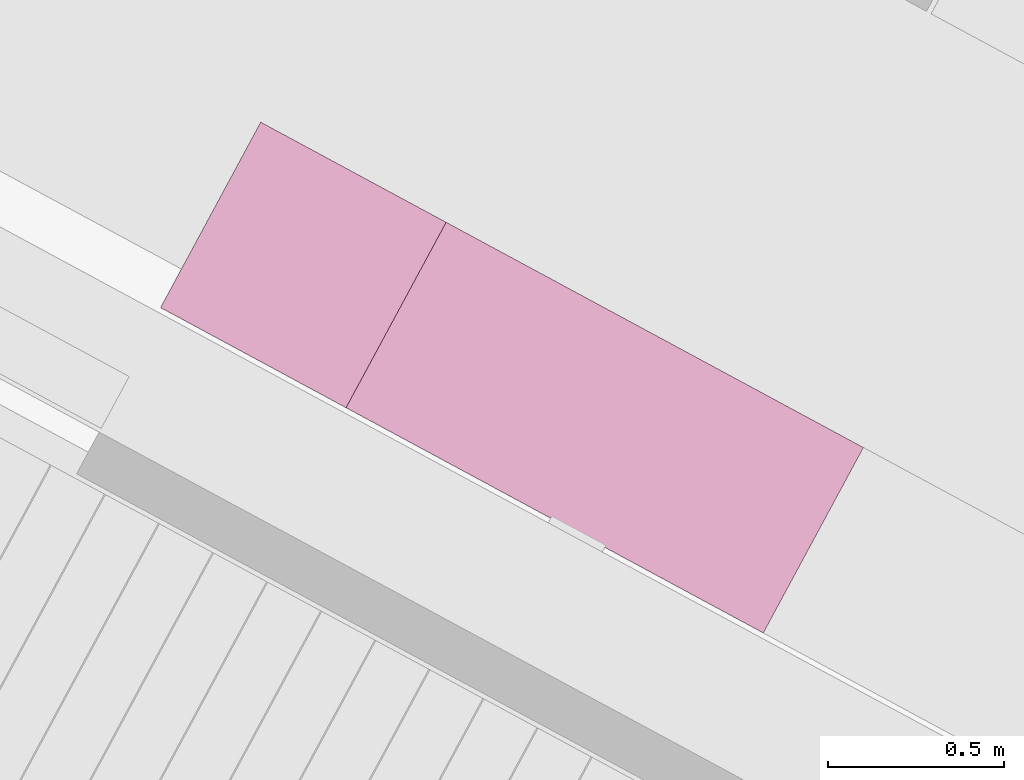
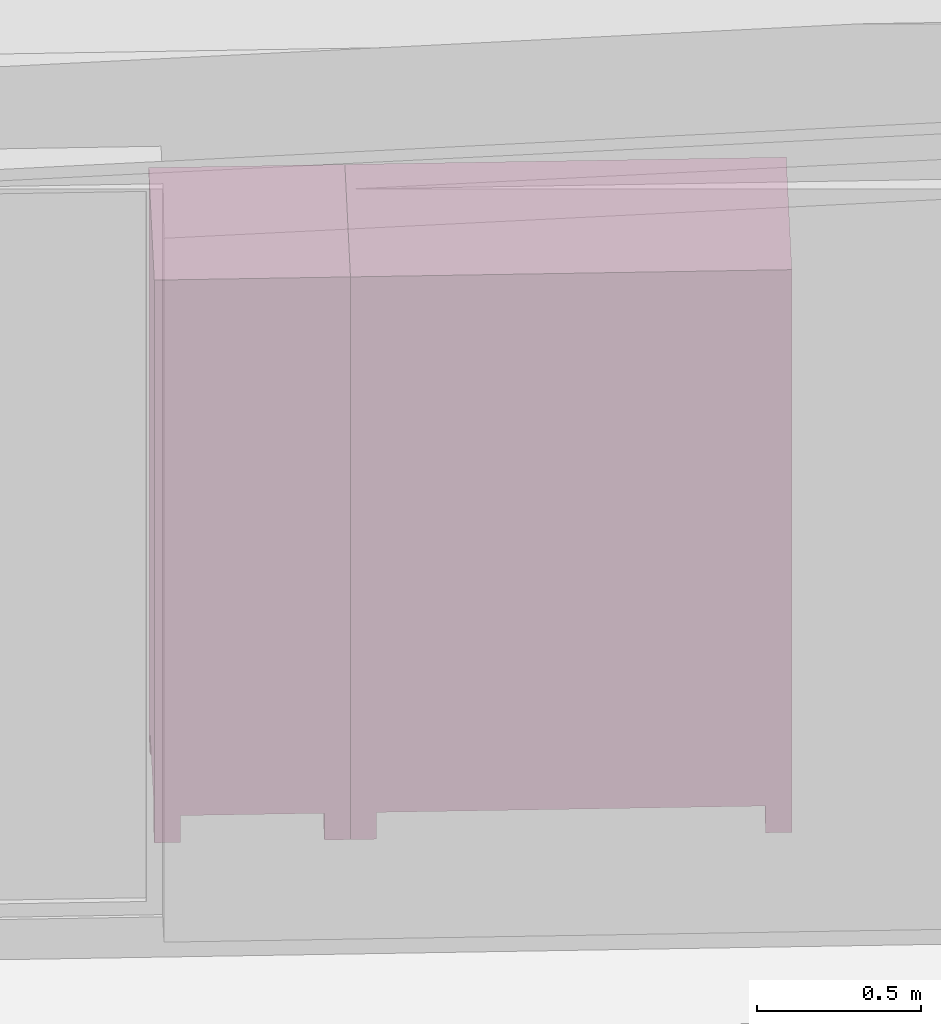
# One storey, part 26 of 48: 2 furnishings.
"""IFC2X3 building model written with IfcOpenShell, lengths in metres."""

from ifc_helpers import new_model, entity, si_unit, converted_unit, derived_unit, money_unit, direction, frame, origin_with_axes, place, context, subcontext, project, spatial, faceted_brep, type_object, element, save


model = new_model("IFC2X3")

# Units and contexts
model_context = context("Model", 3, precision=1e-05, world=origin_with_axes(), true_north=direction((0.0, 1.0)))
body_context = subcontext(model_context, "Body", "Model", "MODEL_VIEW")
ifc_project = project(units=[si_unit("LENGTHUNIT", "METRE"), si_unit("AREAUNIT", "SQUARE_METRE"), si_unit("VOLUMEUNIT", "CUBIC_METRE"), converted_unit("PLANEANGLEUNIT", "DEGREE", entity("IfcPlaneAngleMeasure", 0.0174532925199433), si_unit("PLANEANGLEUNIT", "RADIAN"), dimensions=[0, 0, 0, 0, 0, 0, 0]), money_unit("EUR"), converted_unit("TIMEUNIT", "Year", entity("IfcTimeMeasure", 31556926.0), si_unit("TIMEUNIT", "SECOND"), dimensions=[0, 0, 1, 0, 0, 0, 0]), si_unit("MASSUNIT", "GRAM", prefix="KILO"), si_unit("THERMODYNAMICTEMPERATUREUNIT", "DEGREE_CELSIUS"), si_unit("LUMINOUSINTENSITYUNIT", "LUMEN"), si_unit("ENERGYUNIT", "JOULE", prefix="MEGA"), derived_unit("THERMALCONDUCTANCEUNIT", [(si_unit("POWERUNIT", "WATT"), 1), (si_unit("LENGTHUNIT", "METRE"), -1), (si_unit("THERMODYNAMICTEMPERATUREUNIT", "KELVIN"), -1)]), derived_unit("SPECIFICHEATCAPACITYUNIT", [(si_unit("ENERGYUNIT", "JOULE"), 1), (si_unit("MASSUNIT", "GRAM", prefix="KILO"), -1), (si_unit("THERMODYNAMICTEMPERATUREUNIT", "KELVIN"), -1)]), derived_unit("MASSDENSITYUNIT", [(si_unit("MASSUNIT", "GRAM", prefix="KILO"), 1), (si_unit("VOLUMEUNIT", "CUBIC_METRE"), -1)])], contexts=[model_context])

# Site, building, storey
site_placement = place(None, frame((-3.949935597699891, 1.740105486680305, 0.0), z_axis=(0.0, 0.0, 1.0), x_axis=(0.8799804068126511, -0.475009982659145, 0.0)))
site = spatial("IfcSite", under=ifc_project, at=site_placement, Name="Gelände", CompositionType="ELEMENT")
building_placement = place(site_placement, origin_with_axes())
building = spatial("IfcBuilding", under=site, at=building_placement, Name="Gebäude", CompositionType="ELEMENT")
storey_placement = place(building_placement, frame((0.0, 0.0, 4.55), z_axis=(0.0, 0.0, 1.0), x_axis=(1.0, 0.0, 0.0)))
storey = spatial("IfcBuildingStorey", under=building, at=storey_placement, Name="Staffelgeschoss", CompositionType="ELEMENT", Elevation=4.55)

# Furnishings
furnishing_element_type = type_object("IfcFurnishingElementType", Name="Kleiderschrank 22")
furnishing_1_placement = place(storey_placement, frame((15.85040854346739, 2.239992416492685, 0.0), z_axis=(0.0, 0.0, 1.0), x_axis=(-1.0, 0.0, 0.0)))
element("IfcFurnishingElement", 1, at=furnishing_1_placement, inside=storey, type_object=furnishing_element_type, Name="Objekt-0066", context=body_context, shape_type="Brep", body=[
    faceted_brep([(0.02000000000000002, 0.6000000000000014, 0.12), (0.02000000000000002, 0.5800000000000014, 0.12), (0.02000000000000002, 0.5800000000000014, 2.05), (0.02000000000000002, 0.6000000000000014, 2.05), (0.5799999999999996, 0.6000000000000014, 0.12), (0.5799999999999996, 0.5800000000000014, 0.12), (0.5799999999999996, 0.5800000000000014, 2.05), (0.5799999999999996, 0.6000000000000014, 2.05)], [[[0, 1, 2, 3]], [[0, 4, 5, 1]], [[1, 5, 6, 2]], [[3, 2, 6, 7]], [[4, 0, 3, 7]], [[5, 4, 7, 6]]]),
    faceted_brep([(0.5999999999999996, 0.05000000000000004, 0.1), (0.5799999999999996, 0.05000000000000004, 0.1), (0.5799999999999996, 0.6000000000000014, 0.1), (0.5999999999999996, 0.6000000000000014, 0.1), (0.5999999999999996, 0.05000000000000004, 2.07), (0.5799999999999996, 0.05000000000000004, 2.07), (0.5799999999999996, 0.6000000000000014, 2.07), (0.5999999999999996, 0.6000000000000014, 2.07)], [[[0, 1, 2, 3]], [[1, 0, 4, 5]], [[2, 1, 5, 6]], [[3, 2, 6, 7]], [[0, 3, 7, 4]], [[5, 4, 7, 6]]]),
    faceted_brep([(0.02, 0.05000000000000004, 0.1), (0.0, 0.05000000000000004, 0.1), (0.0, 0.6000000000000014, 0.1), (0.02, 0.6000000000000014, 0.1), (0.02, 0.05000000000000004, 2.07), (0.0, 0.05000000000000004, 2.07), (0.0, 0.6000000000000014, 2.07), (0.02, 0.6000000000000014, 2.07)], [[[0, 1, 2, 3]], [[1, 0, 4, 5]], [[2, 1, 5, 6]], [[3, 2, 6, 7]], [[0, 3, 7, 4]], [[5, 4, 7, 6]]]),
    faceted_brep([(0.5799999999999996, 0.05000000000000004, 0.1), (0.02000000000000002, 0.05000000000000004, 0.1), (0.02000000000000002, 0.6000000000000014, 0.1), (0.5799999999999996, 0.6000000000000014, 0.1), (0.5799999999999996, 0.05000000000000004, 0.12), (0.02000000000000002, 0.05000000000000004, 0.12), (0.02000000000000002, 0.6000000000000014, 0.12), (0.5799999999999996, 0.6000000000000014, 0.12)], [[[0, 1, 2, 3]], [[1, 0, 4, 5]], [[2, 1, 5, 6]], [[3, 2, 6, 7]], [[0, 3, 7, 4]], [[5, 4, 7, 6]]]),
    faceted_brep([(0.5799999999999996, 0.05000000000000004, 2.05), (0.02000000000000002, 0.05000000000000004, 2.05), (0.02000000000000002, 0.6000000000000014, 2.05), (0.5799999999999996, 0.6000000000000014, 2.05), (0.5799999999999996, 0.05000000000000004, 2.07), (0.02000000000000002, 0.05000000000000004, 2.07), (0.02000000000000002, 0.6000000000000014, 2.07), (0.5799999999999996, 0.6000000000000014, 2.07)], [[[0, 1, 2, 3]], [[1, 0, 4, 5]], [[2, 1, 5, 6]], [[3, 2, 6, 7]], [[0, 3, 7, 4]], [[5, 4, 7, 6]]]),
    faceted_brep([(0.5999999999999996, 0.6000000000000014, 2.07), (0.5999999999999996, 0.6000000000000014, 2.1), (0.5999999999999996, 0.0, 2.1), (0.5999999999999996, 0.0, 2.07), (0.0, 0.6000000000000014, 2.07), (0.0, 0.6000000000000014, 2.1), (0.0, 0.0, 2.1), (0.0, 0.0, 2.07)], [[[0, 1, 2, 3]], [[4, 5, 1, 0]], [[1, 5, 6, 2]], [[3, 2, 6, 7]], [[0, 3, 7, 4]], [[7, 6, 5, 4]]]),
    faceted_brep([(0.07999999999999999, 0.5200000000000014, 0.0), (0.07999999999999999, 0.6000000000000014, 0.0), (0.07999999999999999, 0.6000000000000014, 0.1), (0.07999999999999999, 0.5200000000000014, 0.1), (0.0, 0.5200000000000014, 0.0), (0.0, 0.6000000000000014, 0.0), (0.0, 0.6000000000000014, 0.1), (0.0, 0.5200000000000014, 0.1)], [[[0, 1, 2, 3]], [[0, 4, 5, 1]], [[1, 5, 6, 2]], [[3, 2, 6, 7]], [[4, 0, 3, 7]], [[5, 4, 7, 6]]]),
    faceted_brep([(0.5999999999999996, 0.5200000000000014, 0.0), (0.5999999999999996, 0.6000000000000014, 0.0), (0.5999999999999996, 0.6000000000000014, 0.1), (0.5999999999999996, 0.5200000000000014, 0.1), (0.5199999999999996, 0.5200000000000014, 0.0), (0.5199999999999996, 0.6000000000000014, 0.0), (0.5199999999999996, 0.6000000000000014, 0.1), (0.5199999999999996, 0.5200000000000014, 0.1)], [[[0, 1, 2, 3]], [[0, 4, 5, 1]], [[1, 5, 6, 2]], [[3, 2, 6, 7]], [[4, 0, 3, 7]], [[5, 4, 7, 6]]]),
    faceted_brep([(0.07999999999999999, 0.05000000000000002, 0.0), (0.07999999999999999, 0.13, 0.0), (0.07999999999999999, 0.13, 0.1), (0.07999999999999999, 0.05000000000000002, 0.1), (0.0, 0.05000000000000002, 0.0), (0.0, 0.13, 0.0), (0.0, 0.13, 0.1), (0.0, 0.05000000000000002, 0.1)], [[[0, 1, 2, 3]], [[0, 4, 5, 1]], [[1, 5, 6, 2]], [[3, 2, 6, 7]], [[4, 0, 3, 7]], [[5, 4, 7, 6]]]),
    faceted_brep([(0.5999999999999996, 0.05000000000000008, 0.0), (0.5999999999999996, 0.1300000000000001, 0.0), (0.5999999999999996, 0.1300000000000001, 0.1), (0.5999999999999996, 0.05000000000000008, 0.1), (0.5199999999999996, 0.05000000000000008, 0.0), (0.5199999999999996, 0.1300000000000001, 0.0), (0.5199999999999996, 0.1300000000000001, 0.1), (0.5199999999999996, 0.05000000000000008, 0.1)], [[[0, 1, 2, 3]], [[0, 4, 5, 1]], [[1, 5, 6, 2]], [[3, 2, 6, 7]], [[4, 0, 3, 7]], [[5, 4, 7, 6]]]),
    faceted_brep([(0.2994999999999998, 0.05, 0.1104999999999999), (0.2994999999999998, 0.05000000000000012, 2.0595), (0.2994999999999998, 0.03000000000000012, 2.0595), (0.2994999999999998, 0.03, 0.1104999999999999), (0.2694999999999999, 0.05, 0.1405), (0.2694999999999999, 0.05000000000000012, 2.0295), (0.2694999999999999, 0.03000000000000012, 2.0295), (0.2694999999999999, 0.03000000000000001, 0.1405)], [[[0, 1, 2, 3]], [[0, 4, 5, 1]], [[1, 5, 6, 2]], [[3, 2, 6, 7]], [[4, 0, 3, 7]], [[5, 4, 7, 6]]]),
    faceted_brep([(0.04050000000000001, 0.05, 0.1405), (0.04050000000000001, 0.05000000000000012, 2.0295), (0.04050000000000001, 0.03000000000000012, 2.0295), (0.04050000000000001, 0.03000000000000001, 0.1405), (0.01050000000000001, 0.05, 0.1104999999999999), (0.01050000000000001, 0.05000000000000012, 2.0595), (0.01050000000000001, 0.03000000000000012, 2.0595), (0.01050000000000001, 0.03, 0.1104999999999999)], [[[0, 1, 2, 3]], [[0, 4, 5, 1]], [[1, 5, 6, 2]], [[3, 2, 6, 7]], [[4, 0, 3, 7]], [[5, 4, 7, 6]]]),
    faceted_brep([(0.01050000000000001, 0.05, 0.1104999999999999), (0.2994999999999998, 0.05, 0.1104999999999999), (0.2994999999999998, 0.03, 0.1104999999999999), (0.01050000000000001, 0.03, 0.1104999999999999), (0.04050000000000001, 0.05, 0.1405), (0.2694999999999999, 0.05, 0.1405), (0.2694999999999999, 0.03000000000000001, 0.1405), (0.04050000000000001, 0.03000000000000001, 0.1405)], [[[0, 1, 2, 3]], [[0, 4, 5, 1]], [[1, 5, 6, 2]], [[3, 2, 6, 7]], [[4, 0, 3, 7]], [[5, 4, 7, 6]]]),
    faceted_brep([(0.04050000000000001, 0.05000000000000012, 2.0295), (0.2694999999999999, 0.05000000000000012, 2.0295), (0.2694999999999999, 0.03000000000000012, 2.0295), (0.04050000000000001, 0.03000000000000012, 2.0295), (0.01050000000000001, 0.05000000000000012, 2.0595), (0.2994999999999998, 0.05000000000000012, 2.0595), (0.2994999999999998, 0.03000000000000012, 2.0595), (0.01050000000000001, 0.03000000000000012, 2.0595)], [[[0, 1, 2, 3]], [[0, 4, 5, 1]], [[1, 5, 6, 2]], [[3, 2, 6, 7]], [[4, 0, 3, 7]], [[5, 4, 7, 6]]]),
    faceted_brep([(0.2694999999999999, 0.04500000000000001, 0.1405), (0.2694999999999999, 0.04500000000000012, 2.0295), (0.2694999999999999, 0.03500000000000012, 2.0295), (0.2694999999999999, 0.035, 0.1405), (0.04050000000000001, 0.04500000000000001, 0.1405), (0.04050000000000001, 0.04500000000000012, 2.0295), (0.04050000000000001, 0.03500000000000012, 2.0295), (0.04050000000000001, 0.035, 0.1405)], [[[0, 1, 2, 3]], [[0, 4, 5, 1]], [[1, 5, 6, 2]], [[3, 2, 6, 7]], [[4, 0, 3, 7]], [[5, 4, 7, 6]]]),
    faceted_brep([(0.2593923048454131, 0.035, 0.954), (0.2549999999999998, 0.035, 0.9496076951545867), (0.2489999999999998, 0.035, 0.948), (0.2429999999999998, 0.035, 0.9496076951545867), (0.2386076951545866, 0.035, 0.954), (0.2369999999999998, 0.035, 0.96), (0.2386076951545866, 0.035, 0.966), (0.2429999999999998, 0.035, 0.9703923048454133), (0.2489999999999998, 0.035, 0.972), (0.2549999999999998, 0.035, 0.9703923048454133), (0.2593923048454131, 0.035, 0.966), (0.2609999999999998, 0.035, 0.96), (0.2593923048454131, 0.01, 0.954), (0.2549999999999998, 0.01, 0.9496076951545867), (0.2489999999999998, 0.01, 0.948), (0.2429999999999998, 0.01, 0.9496076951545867), (0.2386076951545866, 0.01, 0.954), (0.2369999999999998, 0.01, 0.96), (0.2386076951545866, 0.01, 0.966), (0.2429999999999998, 0.01, 0.9703923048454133), (0.2489999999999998, 0.01, 0.972), (0.2549999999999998, 0.01, 0.9703923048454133), (0.2593923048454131, 0.01, 0.966), (0.2609999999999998, 0.01, 0.96)], [[[0, 1, 2, 3, 4, 5, 6, 7, 8, 9, 10, 11]], [[1, 0, 12, 13]], [[2, 1, 13, 14]], [[3, 2, 14, 15]], [[4, 3, 15, 16]], [[5, 4, 16, 17]], [[6, 5, 17, 18]], [[7, 6, 18, 19]], [[8, 7, 19, 20]], [[9, 8, 20, 21]], [[10, 9, 21, 22]], [[11, 10, 22, 23]], [[0, 11, 23, 12]], [[12, 23, 22, 21, 20, 19, 18, 17, 16, 15, 14, 13]]]),
    faceted_brep([(0.5904999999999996, 0.05, 0.1104999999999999), (0.5904999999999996, 0.05000000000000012, 2.0595), (0.5904999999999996, 0.03000000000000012, 2.0595), (0.5904999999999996, 0.03, 0.1104999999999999), (0.5604999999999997, 0.05, 0.1405), (0.5604999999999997, 0.05000000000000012, 2.0295), (0.5604999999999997, 0.03000000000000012, 2.0295), (0.5604999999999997, 0.03000000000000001, 0.1405)], [[[0, 1, 2, 3]], [[0, 4, 5, 1]], [[1, 5, 6, 2]], [[3, 2, 6, 7]], [[4, 0, 3, 7]], [[5, 4, 7, 6]]]),
    faceted_brep([(0.3314999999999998, 0.05, 0.1405), (0.3314999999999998, 0.05000000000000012, 2.0295), (0.3314999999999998, 0.03000000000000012, 2.0295), (0.3314999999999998, 0.03000000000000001, 0.1405), (0.3014999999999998, 0.05, 0.1104999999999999), (0.3014999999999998, 0.05000000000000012, 2.0595), (0.3014999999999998, 0.03000000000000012, 2.0595), (0.3014999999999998, 0.03, 0.1104999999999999)], [[[0, 1, 2, 3]], [[0, 4, 5, 1]], [[1, 5, 6, 2]], [[3, 2, 6, 7]], [[4, 0, 3, 7]], [[5, 4, 7, 6]]]),
    faceted_brep([(0.3014999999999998, 0.05, 0.1104999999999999), (0.5904999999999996, 0.05, 0.1104999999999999), (0.5904999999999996, 0.03, 0.1104999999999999), (0.3014999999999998, 0.03, 0.1104999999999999), (0.3314999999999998, 0.05, 0.1405), (0.5604999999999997, 0.05, 0.1405), (0.5604999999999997, 0.03000000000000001, 0.1405), (0.3314999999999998, 0.03000000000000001, 0.1405)], [[[0, 1, 2, 3]], [[0, 4, 5, 1]], [[1, 5, 6, 2]], [[3, 2, 6, 7]], [[4, 0, 3, 7]], [[5, 4, 7, 6]]]),
    faceted_brep([(0.3314999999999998, 0.05000000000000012, 2.0295), (0.5604999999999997, 0.05000000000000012, 2.0295), (0.5604999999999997, 0.03000000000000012, 2.0295), (0.3314999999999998, 0.03000000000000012, 2.0295), (0.3014999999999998, 0.05000000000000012, 2.0595), (0.5904999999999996, 0.05000000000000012, 2.0595), (0.5904999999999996, 0.03000000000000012, 2.0595), (0.3014999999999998, 0.03000000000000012, 2.0595)], [[[0, 1, 2, 3]], [[0, 4, 5, 1]], [[1, 5, 6, 2]], [[3, 2, 6, 7]], [[4, 0, 3, 7]], [[5, 4, 7, 6]]]),
    faceted_brep([(0.5604999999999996, 0.04500000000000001, 0.1405), (0.5604999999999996, 0.04500000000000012, 2.0295), (0.5604999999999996, 0.04000000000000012, 2.0295), (0.5604999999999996, 0.04000000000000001, 0.1405), (0.3314999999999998, 0.04500000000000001, 0.1405), (0.3314999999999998, 0.04500000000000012, 2.0295), (0.3314999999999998, 0.04000000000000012, 2.0295), (0.3314999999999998, 0.04000000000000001, 0.1405)], [[[0, 1, 2, 3]], [[0, 4, 5, 1]], [[1, 5, 6, 2]], [[3, 2, 6, 7]], [[4, 0, 3, 7]], [[5, 4, 7, 6]]]),
    faceted_brep([(0.5604999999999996, 0.04000000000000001, 0.1405), (0.5604999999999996, 0.04000000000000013, 2.0295), (0.5604999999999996, 0.03500000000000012, 2.0295), (0.5604999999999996, 0.03500000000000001, 0.1405), (0.3314999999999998, 0.04000000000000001, 0.1405), (0.3314999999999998, 0.04000000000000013, 2.0295), (0.3314999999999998, 0.03500000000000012, 2.0295), (0.3314999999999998, 0.03500000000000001, 0.1405)], [[[0, 1, 2, 3]], [[0, 4, 5, 1]], [[1, 5, 6, 2]], [[3, 2, 6, 7]], [[4, 0, 3, 7]], [[5, 4, 7, 6]]]),
    faceted_brep([(0.3406076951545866, 0.035, 0.954), (0.3389999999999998, 0.035, 0.96), (0.3406076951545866, 0.035, 0.966), (0.3449999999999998, 0.035, 0.9703923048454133), (0.3509999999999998, 0.035, 0.972), (0.3569999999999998, 0.035, 0.9703923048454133), (0.3613923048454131, 0.035, 0.966), (0.3629999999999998, 0.035, 0.96), (0.3613923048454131, 0.035, 0.954), (0.3569999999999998, 0.035, 0.9496076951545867), (0.3509999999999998, 0.035, 0.948), (0.3449999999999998, 0.035, 0.9496076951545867), (0.3406076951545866, 0.01, 0.954), (0.3389999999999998, 0.01, 0.96), (0.3406076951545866, 0.01, 0.966), (0.3449999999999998, 0.01, 0.9703923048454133), (0.3509999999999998, 0.01, 0.972), (0.3569999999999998, 0.01, 0.9703923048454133), (0.3613923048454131, 0.01, 0.966), (0.3629999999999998, 0.01, 0.96), (0.3613923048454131, 0.01, 0.954), (0.3569999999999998, 0.01, 0.9496076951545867), (0.3509999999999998, 0.01, 0.948), (0.3449999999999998, 0.01, 0.9496076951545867)], [[[0, 1, 2, 3, 4, 5, 6, 7, 8, 9, 10, 11]], [[0, 12, 13, 1]], [[1, 13, 14, 2]], [[2, 14, 15, 3]], [[3, 15, 16, 4]], [[4, 16, 17, 5]], [[5, 17, 18, 6]], [[6, 18, 19, 7]], [[7, 19, 20, 8]], [[8, 20, 21, 9]], [[9, 21, 22, 10]], [[10, 22, 23, 11]], [[11, 23, 12, 0]], [[12, 23, 22, 21, 20, 19, 18, 17, 16, 15, 14, 13]]]),
])
furnishing_2_placement = place(storey_placement, frame((17.20040854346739, 2.239992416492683, 0.0), z_axis=(0.0, 0.0, 1.0), x_axis=(-1.0, 0.0, 0.0)))
element("IfcFurnishingElement", 2, at=furnishing_2_placement, inside=storey, type_object=furnishing_element_type, Name="Objekt-0066", context=body_context, shape_type="Brep", body=[
    faceted_brep([(0.02000000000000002, 0.6000000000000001, 0.12), (0.02000000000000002, 0.5800000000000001, 0.12), (0.02000000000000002, 0.5800000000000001, 2.05), (0.02000000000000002, 0.6000000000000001, 2.05), (1.33, 0.6000000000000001, 0.12), (1.33, 0.5800000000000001, 0.12), (1.33, 0.5800000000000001, 2.05), (1.33, 0.6000000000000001, 2.05)], [[[0, 1, 2, 3]], [[0, 4, 5, 1]], [[1, 5, 6, 2]], [[3, 2, 6, 7]], [[4, 0, 3, 7]], [[5, 4, 7, 6]]]),
    faceted_brep([(1.35, 0.05000000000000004, 0.1), (1.33, 0.05000000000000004, 0.1), (1.33, 0.6000000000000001, 0.1), (1.35, 0.6000000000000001, 0.1), (1.35, 0.05000000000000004, 2.07), (1.33, 0.05000000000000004, 2.07), (1.33, 0.6000000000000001, 2.07), (1.35, 0.6000000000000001, 2.07)], [[[0, 1, 2, 3]], [[1, 0, 4, 5]], [[2, 1, 5, 6]], [[3, 2, 6, 7]], [[0, 3, 7, 4]], [[5, 4, 7, 6]]]),
    faceted_brep([(0.02, 0.05000000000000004, 0.1), (0.0, 0.05000000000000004, 0.1), (0.0, 0.6000000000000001, 0.1), (0.02, 0.6000000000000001, 0.1), (0.02, 0.05000000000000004, 2.07), (0.0, 0.05000000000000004, 2.07), (0.0, 0.6000000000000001, 2.07), (0.02, 0.6000000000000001, 2.07)], [[[0, 1, 2, 3]], [[1, 0, 4, 5]], [[2, 1, 5, 6]], [[3, 2, 6, 7]], [[0, 3, 7, 4]], [[5, 4, 7, 6]]]),
    faceted_brep([(1.33, 0.05000000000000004, 0.1), (0.02000000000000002, 0.05000000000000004, 0.1), (0.02000000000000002, 0.6000000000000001, 0.1), (1.33, 0.6000000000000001, 0.1), (1.33, 0.05000000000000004, 0.12), (0.02000000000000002, 0.05000000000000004, 0.12), (0.02000000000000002, 0.6000000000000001, 0.12), (1.33, 0.6000000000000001, 0.12)], [[[0, 1, 2, 3]], [[1, 0, 4, 5]], [[2, 1, 5, 6]], [[3, 2, 6, 7]], [[0, 3, 7, 4]], [[5, 4, 7, 6]]]),
    faceted_brep([(1.33, 0.05000000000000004, 2.05), (0.02000000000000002, 0.05000000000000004, 2.05), (0.02000000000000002, 0.6000000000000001, 2.05), (1.33, 0.6000000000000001, 2.05), (1.33, 0.05000000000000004, 2.07), (0.02000000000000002, 0.05000000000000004, 2.07), (0.02000000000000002, 0.6000000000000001, 2.07), (1.33, 0.6000000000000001, 2.07)], [[[0, 1, 2, 3]], [[1, 0, 4, 5]], [[2, 1, 5, 6]], [[3, 2, 6, 7]], [[0, 3, 7, 4]], [[5, 4, 7, 6]]]),
    faceted_brep([(1.35, 0.6000000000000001, 2.07), (1.35, 0.6000000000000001, 2.1), (1.35, 0.0, 2.1), (1.35, 0.0, 2.07), (0.0, 0.6000000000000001, 2.07), (0.0, 0.6000000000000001, 2.1), (0.0, 0.0, 2.1), (0.0, 0.0, 2.07)], [[[0, 1, 2, 3]], [[4, 5, 1, 0]], [[1, 5, 6, 2]], [[3, 2, 6, 7]], [[0, 3, 7, 4]], [[7, 6, 5, 4]]]),
    faceted_brep([(0.08000000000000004, 0.52, 0.0), (0.08000000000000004, 0.6000000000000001, 0.0), (0.08000000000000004, 0.6000000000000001, 0.1), (0.08000000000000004, 0.52, 0.1), (0.0, 0.52, 0.0), (0.0, 0.6000000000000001, 0.0), (0.0, 0.6000000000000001, 0.1), (0.0, 0.52, 0.1)], [[[0, 1, 2, 3]], [[0, 4, 5, 1]], [[1, 5, 6, 2]], [[3, 2, 6, 7]], [[4, 0, 3, 7]], [[5, 4, 7, 6]]]),
    faceted_brep([(1.35, 0.52, 0.0), (1.35, 0.6000000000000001, 0.0), (1.35, 0.6000000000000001, 0.1), (1.35, 0.52, 0.1), (1.27, 0.52, 0.0), (1.27, 0.6000000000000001, 0.0), (1.27, 0.6000000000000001, 0.1), (1.27, 0.52, 0.1)], [[[0, 1, 2, 3]], [[0, 4, 5, 1]], [[1, 5, 6, 2]], [[3, 2, 6, 7]], [[4, 0, 3, 7]], [[5, 4, 7, 6]]]),
    faceted_brep([(0.08000000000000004, 0.05000000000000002, 0.0), (0.08000000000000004, 0.13, 0.0), (0.08000000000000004, 0.13, 0.1), (0.08000000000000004, 0.05000000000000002, 0.1), (0.0, 0.05000000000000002, 0.0), (0.0, 0.13, 0.0), (0.0, 0.13, 0.1), (0.0, 0.05000000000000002, 0.1)], [[[0, 1, 2, 3]], [[0, 4, 5, 1]], [[1, 5, 6, 2]], [[3, 2, 6, 7]], [[4, 0, 3, 7]], [[5, 4, 7, 6]]]),
    faceted_brep([(1.35, 0.05000000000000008, 0.0), (1.35, 0.1300000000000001, 0.0), (1.35, 0.1300000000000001, 0.1), (1.35, 0.05000000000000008, 0.1), (1.27, 0.05000000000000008, 0.0), (1.27, 0.1300000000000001, 0.0), (1.27, 0.1300000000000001, 0.1), (1.27, 0.05000000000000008, 0.1)], [[[0, 1, 2, 3]], [[0, 4, 5, 1]], [[1, 5, 6, 2]], [[3, 2, 6, 7]], [[4, 0, 3, 7]], [[5, 4, 7, 6]]]),
    faceted_brep([(0.6744999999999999, 0.05, 0.1104999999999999), (0.6744999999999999, 0.05000000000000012, 2.0595), (0.6744999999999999, 0.03000000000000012, 2.0595), (0.6744999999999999, 0.03, 0.1104999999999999), (0.6444999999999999, 0.05, 0.1405), (0.6444999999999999, 0.05000000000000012, 2.0295), (0.6444999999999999, 0.03000000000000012, 2.0295), (0.6444999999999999, 0.03000000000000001, 0.1405)], [[[0, 1, 2, 3]], [[0, 4, 5, 1]], [[1, 5, 6, 2]], [[3, 2, 6, 7]], [[4, 0, 3, 7]], [[5, 4, 7, 6]]]),
    faceted_brep([(0.04049999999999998, 0.05, 0.1405), (0.04049999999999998, 0.05000000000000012, 2.0295), (0.04049999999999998, 0.03000000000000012, 2.0295), (0.04049999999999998, 0.03000000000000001, 0.1405), (0.01050000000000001, 0.05, 0.1104999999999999), (0.01050000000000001, 0.05000000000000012, 2.0595), (0.01050000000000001, 0.03000000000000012, 2.0595), (0.01050000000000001, 0.03, 0.1104999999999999)], [[[0, 1, 2, 3]], [[0, 4, 5, 1]], [[1, 5, 6, 2]], [[3, 2, 6, 7]], [[4, 0, 3, 7]], [[5, 4, 7, 6]]]),
    faceted_brep([(0.01050000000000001, 0.05, 0.1104999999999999), (0.6744999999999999, 0.05, 0.1104999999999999), (0.6744999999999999, 0.03, 0.1104999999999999), (0.01050000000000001, 0.03, 0.1104999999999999), (0.04049999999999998, 0.05, 0.1405), (0.6444999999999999, 0.05, 0.1405), (0.6444999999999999, 0.03000000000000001, 0.1405), (0.04049999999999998, 0.03000000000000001, 0.1405)], [[[0, 1, 2, 3]], [[0, 4, 5, 1]], [[1, 5, 6, 2]], [[3, 2, 6, 7]], [[4, 0, 3, 7]], [[5, 4, 7, 6]]]),
    faceted_brep([(0.04049999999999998, 0.05000000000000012, 2.0295), (0.6444999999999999, 0.05000000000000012, 2.0295), (0.6444999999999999, 0.03000000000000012, 2.0295), (0.04049999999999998, 0.03000000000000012, 2.0295), (0.01050000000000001, 0.05000000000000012, 2.0595), (0.6744999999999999, 0.05000000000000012, 2.0595), (0.6744999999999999, 0.03000000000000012, 2.0595), (0.01050000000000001, 0.03000000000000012, 2.0595)], [[[0, 1, 2, 3]], [[0, 4, 5, 1]], [[1, 5, 6, 2]], [[3, 2, 6, 7]], [[4, 0, 3, 7]], [[5, 4, 7, 6]]]),
    faceted_brep([(0.6444999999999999, 0.04500000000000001, 0.1405), (0.6444999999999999, 0.04500000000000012, 2.0295), (0.6444999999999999, 0.03500000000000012, 2.0295), (0.6444999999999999, 0.035, 0.1405), (0.04049999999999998, 0.04500000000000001, 0.1405), (0.04049999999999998, 0.04500000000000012, 2.0295), (0.04049999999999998, 0.03500000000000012, 2.0295), (0.04049999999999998, 0.035, 0.1405)], [[[0, 1, 2, 3]], [[0, 4, 5, 1]], [[1, 5, 6, 2]], [[3, 2, 6, 7]], [[4, 0, 3, 7]], [[5, 4, 7, 6]]]),
    faceted_brep([(0.634392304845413, 0.035, 0.954), (0.6299999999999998, 0.035, 0.9496076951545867), (0.6239999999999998, 0.035, 0.948), (0.6179999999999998, 0.035, 0.9496076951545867), (0.6136076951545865, 0.035, 0.954), (0.6119999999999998, 0.035, 0.96), (0.6136076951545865, 0.035, 0.966), (0.6179999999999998, 0.035, 0.9703923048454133), (0.6239999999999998, 0.035, 0.972), (0.6299999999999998, 0.035, 0.9703923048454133), (0.6343923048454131, 0.035, 0.966), (0.6359999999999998, 0.035, 0.96), (0.634392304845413, 0.01, 0.954), (0.6299999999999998, 0.01, 0.9496076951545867), (0.6239999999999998, 0.01, 0.948), (0.6179999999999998, 0.01, 0.9496076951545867), (0.6136076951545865, 0.01, 0.954), (0.6119999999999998, 0.01, 0.96), (0.6136076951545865, 0.01, 0.966), (0.6179999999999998, 0.01, 0.9703923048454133), (0.6239999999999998, 0.01, 0.972), (0.6299999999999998, 0.01, 0.9703923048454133), (0.6343923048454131, 0.01, 0.966), (0.6359999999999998, 0.01, 0.96)], [[[0, 1, 2, 3, 4, 5, 6, 7, 8, 9, 10, 11]], [[1, 0, 12, 13]], [[2, 1, 13, 14]], [[3, 2, 14, 15]], [[4, 3, 15, 16]], [[5, 4, 16, 17]], [[6, 5, 17, 18]], [[7, 6, 18, 19]], [[8, 7, 19, 20]], [[9, 8, 20, 21]], [[10, 9, 21, 22]], [[11, 10, 22, 23]], [[0, 11, 23, 12]], [[12, 23, 22, 21, 20, 19, 18, 17, 16, 15, 14, 13]]]),
    faceted_brep([(1.3405, 0.05, 0.1104999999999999), (1.3405, 0.05000000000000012, 2.0595), (1.3405, 0.03000000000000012, 2.0595), (1.3405, 0.03, 0.1104999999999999), (1.3105, 0.05, 0.1405), (1.3105, 0.05000000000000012, 2.0295), (1.3105, 0.03000000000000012, 2.0295), (1.3105, 0.03000000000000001, 0.1405)], [[[0, 1, 2, 3]], [[0, 4, 5, 1]], [[1, 5, 6, 2]], [[3, 2, 6, 7]], [[4, 0, 3, 7]], [[5, 4, 7, 6]]]),
    faceted_brep([(0.7064999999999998, 0.05, 0.1405), (0.7064999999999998, 0.05000000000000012, 2.0295), (0.7064999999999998, 0.03000000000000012, 2.0295), (0.7064999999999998, 0.03000000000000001, 0.1405), (0.6764999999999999, 0.05, 0.1104999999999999), (0.6764999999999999, 0.05000000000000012, 2.0595), (0.6764999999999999, 0.03000000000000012, 2.0595), (0.6764999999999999, 0.03, 0.1104999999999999)], [[[0, 1, 2, 3]], [[0, 4, 5, 1]], [[1, 5, 6, 2]], [[3, 2, 6, 7]], [[4, 0, 3, 7]], [[5, 4, 7, 6]]]),
    faceted_brep([(0.6764999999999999, 0.05, 0.1104999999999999), (1.3405, 0.05, 0.1104999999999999), (1.3405, 0.03, 0.1104999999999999), (0.6764999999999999, 0.03, 0.1104999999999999), (0.7064999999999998, 0.05, 0.1405), (1.3105, 0.05, 0.1405), (1.3105, 0.03000000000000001, 0.1405), (0.7064999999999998, 0.03000000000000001, 0.1405)], [[[0, 1, 2, 3]], [[0, 4, 5, 1]], [[1, 5, 6, 2]], [[3, 2, 6, 7]], [[4, 0, 3, 7]], [[5, 4, 7, 6]]]),
    faceted_brep([(0.7064999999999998, 0.05000000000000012, 2.0295), (1.3105, 0.05000000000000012, 2.0295), (1.3105, 0.03000000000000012, 2.0295), (0.7064999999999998, 0.03000000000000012, 2.0295), (0.6764999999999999, 0.05000000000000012, 2.0595), (1.3405, 0.05000000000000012, 2.0595), (1.3405, 0.03000000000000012, 2.0595), (0.6764999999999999, 0.03000000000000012, 2.0595)], [[[0, 1, 2, 3]], [[0, 4, 5, 1]], [[1, 5, 6, 2]], [[3, 2, 6, 7]], [[4, 0, 3, 7]], [[5, 4, 7, 6]]]),
    faceted_brep([(1.3105, 0.04500000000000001, 0.1405), (1.3105, 0.04500000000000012, 2.0295), (1.3105, 0.04000000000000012, 2.0295), (1.3105, 0.04000000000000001, 0.1405), (0.7064999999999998, 0.04500000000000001, 0.1405), (0.7064999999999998, 0.04500000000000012, 2.0295), (0.7064999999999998, 0.04000000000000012, 2.0295), (0.7064999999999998, 0.04000000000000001, 0.1405)], [[[0, 1, 2, 3]], [[0, 4, 5, 1]], [[1, 5, 6, 2]], [[3, 2, 6, 7]], [[4, 0, 3, 7]], [[5, 4, 7, 6]]]),
    faceted_brep([(1.3105, 0.04000000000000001, 0.1405), (1.3105, 0.04000000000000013, 2.0295), (1.3105, 0.03500000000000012, 2.0295), (1.3105, 0.03500000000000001, 0.1405), (0.7064999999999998, 0.04000000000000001, 0.1405), (0.7064999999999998, 0.04000000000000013, 2.0295), (0.7064999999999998, 0.03500000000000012, 2.0295), (0.7064999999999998, 0.03500000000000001, 0.1405)], [[[0, 1, 2, 3]], [[0, 4, 5, 1]], [[1, 5, 6, 2]], [[3, 2, 6, 7]], [[4, 0, 3, 7]], [[5, 4, 7, 6]]]),
    faceted_brep([(0.7156076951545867, 0.035, 0.954), (0.7139999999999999, 0.035, 0.96), (0.7156076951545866, 0.035, 0.966), (0.7199999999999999, 0.035, 0.9703923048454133), (0.7259999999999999, 0.035, 0.972), (0.7319999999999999, 0.035, 0.9703923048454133), (0.7363923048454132, 0.035, 0.966), (0.7379999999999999, 0.035, 0.96), (0.7363923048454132, 0.035, 0.954), (0.7319999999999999, 0.035, 0.9496076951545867), (0.7259999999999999, 0.035, 0.948), (0.7199999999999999, 0.035, 0.9496076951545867), (0.7156076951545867, 0.01, 0.954), (0.7139999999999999, 0.01, 0.96), (0.7156076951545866, 0.01, 0.966), (0.7199999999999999, 0.01, 0.9703923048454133), (0.7259999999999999, 0.01, 0.972), (0.7319999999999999, 0.01, 0.9703923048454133), (0.7363923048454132, 0.01, 0.966), (0.7379999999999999, 0.01, 0.96), (0.7363923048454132, 0.01, 0.954), (0.7319999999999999, 0.01, 0.9496076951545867), (0.7259999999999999, 0.01, 0.948), (0.7199999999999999, 0.01, 0.9496076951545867)], [[[0, 1, 2, 3, 4, 5, 6, 7, 8, 9, 10, 11]], [[0, 12, 13, 1]], [[1, 13, 14, 2]], [[2, 14, 15, 3]], [[3, 15, 16, 4]], [[4, 16, 17, 5]], [[5, 17, 18, 6]], [[6, 18, 19, 7]], [[7, 19, 20, 8]], [[8, 20, 21, 9]], [[9, 21, 22, 10]], [[10, 22, 23, 11]], [[11, 23, 12, 0]], [[12, 23, 22, 21, 20, 19, 18, 17, 16, 15, 14, 13]]]),
])

save(model, "model.ifc")
